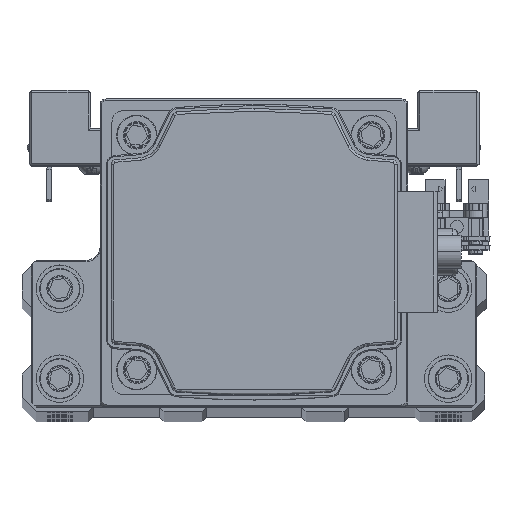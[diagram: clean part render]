
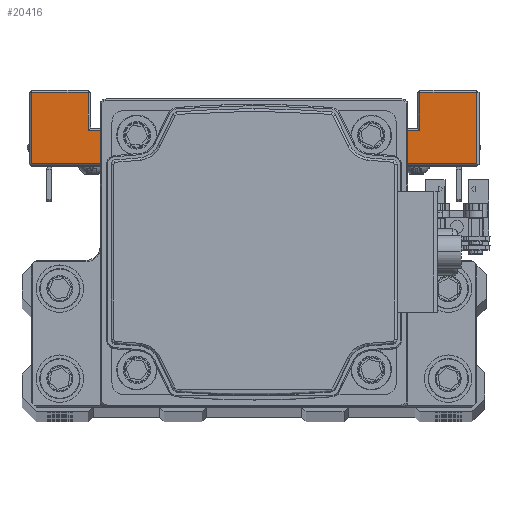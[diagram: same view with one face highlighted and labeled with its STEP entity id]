
A CAD part, top view. The second image highlights one B-rep face of the part: STEP entity #20416.
In plain terms, the highlighted planar face has unit normal (0, 0, 1) as drawn and (1, 0, 0) by its records, which use the part's own axes.
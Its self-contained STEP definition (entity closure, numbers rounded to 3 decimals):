
#336 = ORIENTED_EDGE ( 'NONE', *, *, #1351, .T. ) ;
#489 = DIRECTION ( 'NONE',  ( 0., -1., 0. ) ) ;
#754 = EDGE_CURVE ( 'NONE', #13665, #29727, #21804, .T. ) ;
#1351 = EDGE_CURVE ( 'NONE', #39336, #38351, #41220, .T. ) ;
#1698 = CARTESIAN_POINT ( 'NONE',  ( 47., 7.5, 47. ) ) ;
#1969 = CARTESIAN_POINT ( 'NONE',  ( 47., 8., -47. ) ) ;
#2156 = VERTEX_POINT ( 'NONE', #1969 ) ;
#3098 = CARTESIAN_POINT ( 'NONE',  ( 47., 7.5, -20. ) ) ;
#3296 = CARTESIAN_POINT ( 'NONE',  ( 47., 8., 47. ) ) ;
#3703 = ORIENTED_EDGE ( 'NONE', *, *, #31362, .T. ) ;
#4313 = CARTESIAN_POINT ( 'NONE',  ( 47., 23., -47. ) ) ;
#4511 = DIRECTION ( 'NONE',  ( 0., -1., 0. ) ) ;
#4524 = VECTOR ( 'NONE', #24335, 1000. ) ;
#4558 = VERTEX_POINT ( 'NONE', #13635 ) ;
#5304 = ORIENTED_EDGE ( 'NONE', *, *, #12436, .T. ) ;
#7135 = DIRECTION ( 'NONE',  ( 0., 0., -1. ) ) ;
#7181 = CARTESIAN_POINT ( 'NONE',  ( 47., 15., -35. ) ) ;
#7303 = DIRECTION ( 'NONE',  ( 0., 0., 1. ) ) ;
#7315 = VECTOR ( 'NONE', #12547, 1000. ) ;
#7424 = EDGE_LOOP ( 'NONE', ( #12162, #25728, #44463, #26250, #3703, #19716, #31316, #9532, #12139, #336, #40088, #5304 ) ) ;
#7719 = DIRECTION ( 'NONE',  ( 0., 1., 0. ) ) ;
#8139 = VECTOR ( 'NONE', #7719, 1000. ) ;
#8731 = CARTESIAN_POINT ( 'NONE',  ( 47., 8., 20. ) ) ;
#8792 = VECTOR ( 'NONE', #7135, 1000. ) ;
#9532 = ORIENTED_EDGE ( 'NONE', *, *, #27066, .T. ) ;
#10043 = CARTESIAN_POINT ( 'NONE',  ( 47., 8., 20. ) ) ;
#10464 = CARTESIAN_POINT ( 'NONE',  ( 47., 8., -47. ) ) ;
#10647 = LINE ( 'NONE', #24517, #10740 ) ;
#10740 = VECTOR ( 'NONE', #38399, 1000. ) ;
#10918 = CARTESIAN_POINT ( 'NONE',  ( 47., 8., -20. ) ) ;
#11636 = EDGE_CURVE ( 'NONE', #40376, #4558, #24586, .T. ) ;
#11733 = VERTEX_POINT ( 'NONE', #25050 ) ;
#12139 = ORIENTED_EDGE ( 'NONE', *, *, #17245, .T. ) ;
#12162 = ORIENTED_EDGE ( 'NONE', *, *, #754, .F. ) ;
#12436 = EDGE_CURVE ( 'NONE', #11733, #29727, #24432, .T. ) ;
#12547 = DIRECTION ( 'NONE',  ( 0., 0., 1. ) ) ;
#13024 = VERTEX_POINT ( 'NONE', #18464 ) ;
#13276 = CARTESIAN_POINT ( 'NONE',  ( 47., 7.5, -35. ) ) ;
#13341 = VECTOR ( 'NONE', #4511, 1000. ) ;
#13635 = CARTESIAN_POINT ( 'NONE',  ( 47., 23., -35. ) ) ;
#13665 = VERTEX_POINT ( 'NONE', #10918 ) ;
#14179 = CARTESIAN_POINT ( 'NONE',  ( 47., 23., 47. ) ) ;
#15421 = EDGE_CURVE ( 'NONE', #30438, #13024, #10647, .T. ) ;
#15600 = DIRECTION ( 'NONE',  ( 0., -1., 0. ) ) ;
#15673 = LINE ( 'NONE', #29531, #36864 ) ;
#15817 = VERTEX_POINT ( 'NONE', #7181 ) ;
#16364 = EDGE_CURVE ( 'NONE', #38351, #11733, #17824, .T. ) ;
#16991 = DIRECTION ( 'NONE',  ( -1., 0., 0. ) ) ;
#17245 = EDGE_CURVE ( 'NONE', #44841, #39336, #32882, .T. ) ;
#17824 = LINE ( 'NONE', #31683, #20881 ) ;
#18464 = CARTESIAN_POINT ( 'NONE',  ( 47., 23., 35. ) ) ;
#19716 = ORIENTED_EDGE ( 'NONE', *, *, #42411, .T. ) ;
#20409 = FACE_OUTER_BOUND ( 'NONE', #7424, .T. ) ;
#20416 = ADVANCED_FACE ( 'NONE', ( #20409 ), #34288, .F. ) ;
#20881 = VECTOR ( 'NONE', #489, 1000. ) ;
#21804 = LINE ( 'NONE', #35683, #13341 ) ;
#22643 = AXIS2_PLACEMENT_3D ( 'NONE', #3098, #16991, #30865 ) ;
#23935 = DIRECTION ( 'NONE',  ( 0., 0., -1. ) ) ;
#24335 = DIRECTION ( 'NONE',  ( 0., 0., -1. ) ) ;
#24432 = LINE ( 'NONE', #38301, #8792 ) ;
#24517 = CARTESIAN_POINT ( 'NONE',  ( 47., 7.5, 35. ) ) ;
#24586 = LINE ( 'NONE', #38467, #37198 ) ;
#25023 = LINE ( 'NONE', #38901, #8139 ) ;
#25050 = CARTESIAN_POINT ( 'NONE',  ( 47., -7.5, 20. ) ) ;
#25728 = ORIENTED_EDGE ( 'NONE', *, *, #28580, .T. ) ;
#26250 = ORIENTED_EDGE ( 'NONE', *, *, #11636, .T. ) ;
#27066 = EDGE_CURVE ( 'NONE', #13024, #44841, #29800, .T. ) ;
#27138 = DIRECTION ( 'NONE',  ( 0., -1., 0. ) ) ;
#27862 = VECTOR ( 'NONE', #27138, 1000. ) ;
#28580 = EDGE_CURVE ( 'NONE', #13665, #2156, #41637, .T. ) ;
#29531 = CARTESIAN_POINT ( 'NONE',  ( 47., 15., -20. ) ) ;
#29727 = VERTEX_POINT ( 'NONE', #35143 ) ;
#29800 = LINE ( 'NONE', #43706, #7315 ) ;
#30438 = VERTEX_POINT ( 'NONE', #34072 ) ;
#30865 = DIRECTION ( 'NONE',  ( 0., 0., 1. ) ) ;
#31316 = ORIENTED_EDGE ( 'NONE', *, *, #15421, .T. ) ;
#31362 = EDGE_CURVE ( 'NONE', #4558, #15817, #44452, .T. ) ;
#31683 = CARTESIAN_POINT ( 'NONE',  ( 47., 7.5, 20. ) ) ;
#32558 = VECTOR ( 'NONE', #15600, 1000. ) ;
#32882 = LINE ( 'NONE', #1698, #32558 ) ;
#34072 = CARTESIAN_POINT ( 'NONE',  ( 47., 15., 35. ) ) ;
#34288 = PLANE ( 'NONE',  #22643 ) ;
#34882 = EDGE_CURVE ( 'NONE', #2156, #40376, #25023, .T. ) ;
#35143 = CARTESIAN_POINT ( 'NONE',  ( 47., -7.5, -20. ) ) ;
#35683 = CARTESIAN_POINT ( 'NONE',  ( 47., 7.5, -20. ) ) ;
#36389 = VECTOR ( 'NONE', #23935, 1000. ) ;
#36864 = VECTOR ( 'NONE', #43430, 1000. ) ;
#37198 = VECTOR ( 'NONE', #7303, 1000. ) ;
#38301 = CARTESIAN_POINT ( 'NONE',  ( 47., -7.5, -20. ) ) ;
#38351 = VERTEX_POINT ( 'NONE', #8731 ) ;
#38399 = DIRECTION ( 'NONE',  ( 0., 1., 0. ) ) ;
#38467 = CARTESIAN_POINT ( 'NONE',  ( 47., 23., -20. ) ) ;
#38901 = CARTESIAN_POINT ( 'NONE',  ( 47., 7.5, -47. ) ) ;
#39336 = VERTEX_POINT ( 'NONE', #3296 ) ;
#40088 = ORIENTED_EDGE ( 'NONE', *, *, #16364, .T. ) ;
#40376 = VERTEX_POINT ( 'NONE', #4313 ) ;
#41220 = LINE ( 'NONE', #10043, #36389 ) ;
#41637 = LINE ( 'NONE', #10464, #4524 ) ;
#42411 = EDGE_CURVE ( 'NONE', #15817, #30438, #15673, .T. ) ;
#43430 = DIRECTION ( 'NONE',  ( 0., 0., 1. ) ) ;
#43706 = CARTESIAN_POINT ( 'NONE',  ( 47., 23., -20. ) ) ;
#44452 = LINE ( 'NONE', #13276, #27862 ) ;
#44463 = ORIENTED_EDGE ( 'NONE', *, *, #34882, .T. ) ;
#44841 = VERTEX_POINT ( 'NONE', #14179 ) ;
